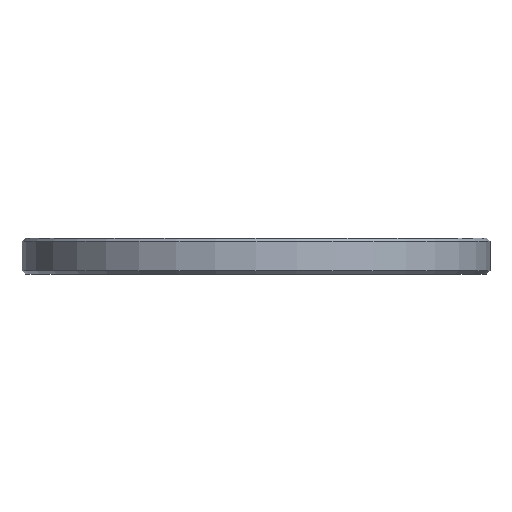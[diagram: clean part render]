
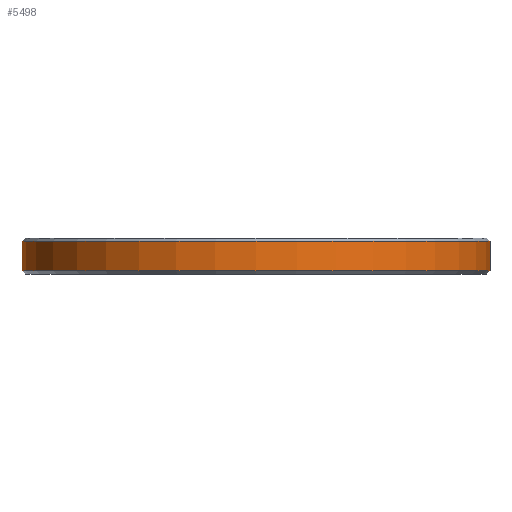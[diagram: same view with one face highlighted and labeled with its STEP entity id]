
A CAD part, front view. The second image highlights one B-rep face of the part: STEP entity #5498.
In plain terms, the highlighted cylindrical face has radius 20.312 mm (diameter 40.625 mm), a full revolution.
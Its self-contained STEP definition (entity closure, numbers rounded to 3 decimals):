
#307=CYLINDRICAL_SURFACE('',#5822,20.313);
#575=FACE_OUTER_BOUND('',#880,.T.);
#880=EDGE_LOOP('',(#5159,#5160,#5161,#5162));
#1613=LINE('',#8720,#2342);
#2342=VECTOR('',#7158,20.313);
#2382=CIRCLE('',#5821,20.313);
#2383=CIRCLE('',#5823,20.313);
#2886=VERTEX_POINT('',#8714);
#2887=VERTEX_POINT('',#8718);
#3644=EDGE_CURVE('',#2886,#2886,#2382,.T.);
#3646=EDGE_CURVE('',#2887,#2887,#2383,.T.);
#3647=EDGE_CURVE('',#2887,#2886,#1613,.T.);
#5159=ORIENTED_EDGE('',*,*,#3646,.F.);
#5160=ORIENTED_EDGE('',*,*,#3647,.T.);
#5161=ORIENTED_EDGE('',*,*,#3644,.F.);
#5162=ORIENTED_EDGE('',*,*,#3647,.F.);
#5498=ADVANCED_FACE('',(#575),#307,.T.);
#5821=AXIS2_PLACEMENT_3D('',#8715,#7151,#7152);
#5822=AXIS2_PLACEMENT_3D('',#8717,#7154,#7155);
#5823=AXIS2_PLACEMENT_3D('',#8719,#7156,#7157);
#7151=DIRECTION('center_axis',(0.,0.,-1.));
#7152=DIRECTION('ref_axis',(1.,0.,0.));
#7154=DIRECTION('center_axis',(0.,0.,1.));
#7155=DIRECTION('ref_axis',(1.,0.,0.));
#7156=DIRECTION('center_axis',(0.,0.,1.));
#7157=DIRECTION('ref_axis',(1.,0.,0.));
#7158=DIRECTION('',(0.,0.,-1.));
#8714=CARTESIAN_POINT('',(-20.313,0.,0.3));
#8715=CARTESIAN_POINT('Origin',(0.,0.,0.3));
#8717=CARTESIAN_POINT('Origin',(0.,0.,0.));
#8718=CARTESIAN_POINT('',(-20.313,0.,2.825));
#8719=CARTESIAN_POINT('Origin',(0.,0.,2.825));
#8720=CARTESIAN_POINT('',(-20.313,0.,0.));
